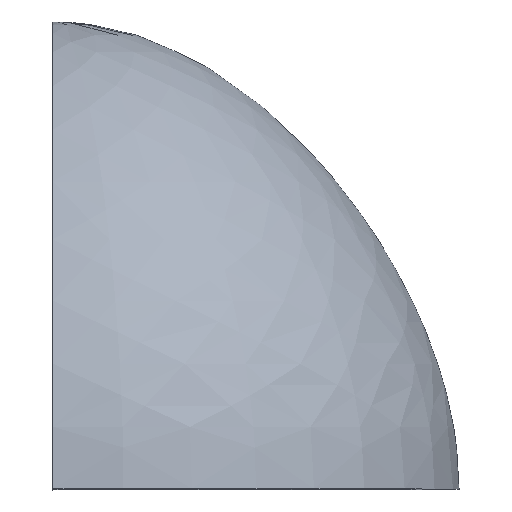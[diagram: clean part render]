
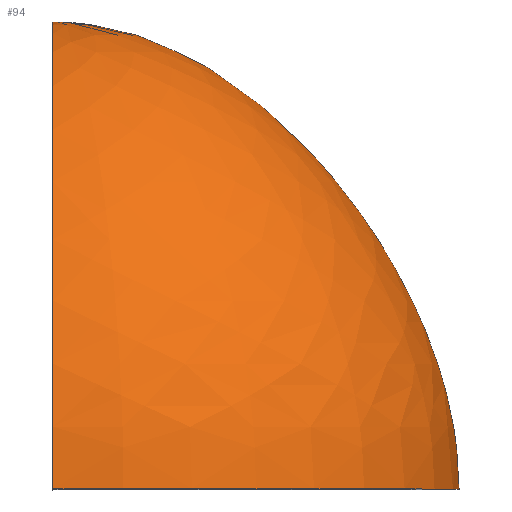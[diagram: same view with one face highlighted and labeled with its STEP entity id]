
A CAD part, top view. The second image highlights one B-rep face of the part: STEP entity #94.
In plain terms, the highlighted face is a revolution surface.
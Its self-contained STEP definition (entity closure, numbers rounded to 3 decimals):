
#52=CARTESIAN_POINT('Control Point',(0.,0.,93.)) ;
#53=CARTESIAN_POINT('Control Point',(0.,28.353,93.)) ;
#54=CARTESIAN_POINT('Control Point',(0.,58.648,80.383)) ;
#55=CARTESIAN_POINT('Control Point',(0.,90.883,55.148)) ;
#56=CARTESIAN_POINT('Control Point',(0.,107.,28.353)) ;
#57=CARTESIAN_POINT('Control Point',(0.,107.,0.)) ;
#58=CARTESIAN_POINT('Axis1P Location',(0.,0.,0.)) ;
#63=CARTESIAN_POINT('Control Point',(0.,0.,-93.)) ;
#64=CARTESIAN_POINT('Control Point',(0.,28.353,-93.)) ;
#65=CARTESIAN_POINT('Control Point',(0.,58.648,-80.383)) ;
#66=CARTESIAN_POINT('Control Point',(0.,90.883,-55.148)) ;
#67=CARTESIAN_POINT('Control Point',(0.,107.,-28.353)) ;
#68=CARTESIAN_POINT('Control Point',(0.,107.,0.)) ;
#69=CARTESIAN_POINT('Vertex',(0.,0.,-93.)) ;
#71=CARTESIAN_POINT('Vertex',(0.,107.,0.)) ;
#75=CARTESIAN_POINT('Control Point',(0.,0.,93.)) ;
#76=CARTESIAN_POINT('Control Point',(0.,28.353,93.)) ;
#77=CARTESIAN_POINT('Control Point',(0.,58.648,80.383)) ;
#78=CARTESIAN_POINT('Control Point',(0.,90.883,55.148)) ;
#79=CARTESIAN_POINT('Control Point',(0.,107.,28.353)) ;
#80=CARTESIAN_POINT('Control Point',(0.,107.,0.)) ;
#81=CARTESIAN_POINT('Vertex',(0.,0.,93.)) ;
#84=CARTESIAN_POINT('Axis2P3D Location',(0.,0.,0.)) ;
#59=DIRECTION('Axis1P Direction',(0.,1.,0.)) ;
#85=DIRECTION('Axis2P3D Direction',(0.,1.,0.)) ;
#86=AXIS2_PLACEMENT_3D('Circle Axis2P3D',#84,#85,$) ;
#90=ORIENTED_EDGE('',*,*,#73,.T.) ;
#91=ORIENTED_EDGE('',*,*,#83,.F.) ;
#92=ORIENTED_EDGE('',*,*,#88,.T.) ;
#94=ADVANCED_FACE('PartBody',(#93),#61,.T.) ;
#60=AXIS1_PLACEMENT('Revolution Surface Axis1P',#58,#59) ;
#51=B_SPLINE_CURVE_WITH_KNOTS('',5,(#52,#53,#54,#55,#56,#57),.UNSPECIFIED.,.F.,.U.,(6,6),(0.,141.767),.UNSPECIFIED.) ;
#62=B_SPLINE_CURVE_WITH_KNOTS('',5,(#63,#64,#65,#66,#67,#68),.UNSPECIFIED.,.F.,.U.,(6,6),(0.,141.767),.UNSPECIFIED.) ;
#74=B_SPLINE_CURVE_WITH_KNOTS('',5,(#75,#76,#77,#78,#79,#80),.UNSPECIFIED.,.F.,.U.,(6,6),(0.,141.767),.UNSPECIFIED.) ;
#87=CIRCLE('generated circle',#86,93.) ;
#73=EDGE_CURVE('',#70,#72,#62,.T.) ;
#83=EDGE_CURVE('',#82,#72,#74,.T.) ;
#88=EDGE_CURVE('',#82,#70,#87,.T.) ;
#89=EDGE_LOOP('',(#90,#91,#92)) ;
#93=FACE_OUTER_BOUND('',#89,.T.) ;
#61=SURFACE_OF_REVOLUTION('Surface of Revolution',#51,#60) ;
#70=VERTEX_POINT('',#69) ;
#72=VERTEX_POINT('',#71) ;
#82=VERTEX_POINT('',#81) ;
